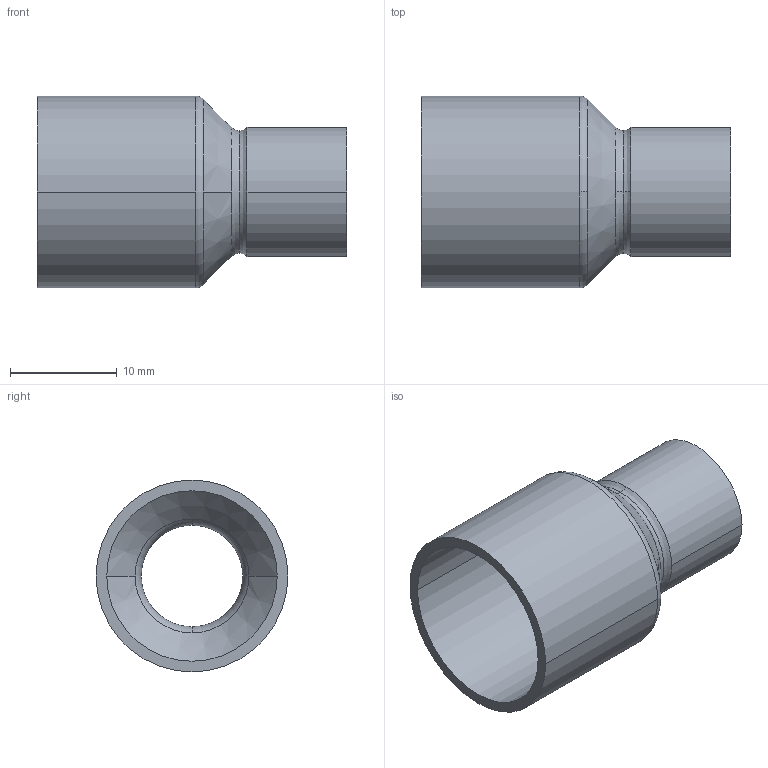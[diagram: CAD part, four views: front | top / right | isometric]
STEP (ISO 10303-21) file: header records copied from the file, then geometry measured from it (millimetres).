
FILE_DESCRIPTION((''),'2;1');
FILE_NAME('G:\Technics\CAD\Bauteile\Serie 15243\152431810.stp','2005-10-21T12:49:34',('boden'),(''),'Autodesk Inventor 8','Autodesk Inventor 8','');
FILE_SCHEMA(('AUTOMOTIVE_DESIGN { 1 0 10303 214 1 1 1 1 }'));
Length unit declared in the file: millimetre
Products named in the file (1): 152431810
Bounding box: 29 x 18 x 18 mm (x, y, z)
Volume: 1373.2 mm3; surface area: 2834.9 mm2
Topology: 1 solids, 1 shells, 24 faces, 60 edges, 38 vertices
Faces by surface type: cylinder 8, torus 6, bspline 4, cone 4, plane 2
Entity records: 931 total; most frequent: CARTESIAN_POINT 299, DIRECTION 150, ORIENTED_EDGE 120, AXIS2_PLACEMENT_3D 69, EDGE_CURVE 60, CIRCLE 48, VERTEX_POINT 38, EDGE_LOOP 26
